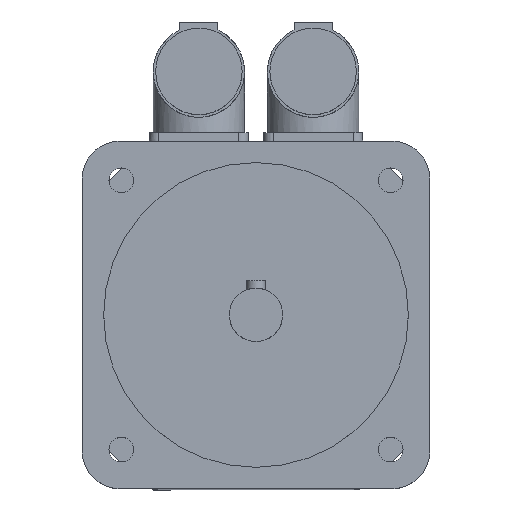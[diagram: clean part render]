
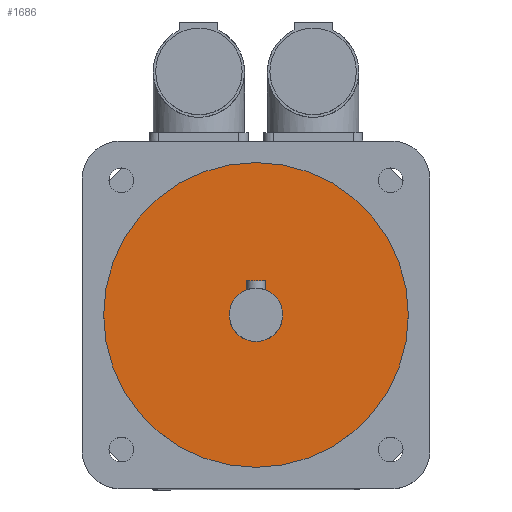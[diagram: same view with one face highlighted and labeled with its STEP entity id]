
A CAD part, top view. The second image highlights one B-rep face of the part: STEP entity #1686.
In plain terms, the highlighted planar face has unit normal (0, 0, 1).
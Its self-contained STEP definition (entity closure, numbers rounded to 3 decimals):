
#28=FACE_BOUND('',#305,.T.);
#53=CIRCLE('',#1788,7.);
#54=CIRCLE('',#1791,40.);
#202=FACE_OUTER_BOUND('',#304,.T.);
#304=EDGE_LOOP('',(#1158));
#305=EDGE_LOOP('',(#1159));
#718=VERTEX_POINT('',#2569);
#719=VERTEX_POINT('',#2573);
#892=EDGE_CURVE('',#718,#718,#53,.T.);
#893=EDGE_CURVE('',#719,#719,#54,.T.);
#1158=ORIENTED_EDGE('',*,*,#893,.T.);
#1159=ORIENTED_EDGE('',*,*,#892,.T.);
#1633=PLANE('',#1793);
#1686=ADVANCED_FACE('',(#202,#28),#1633,.T.);
#1788=AXIS2_PLACEMENT_3D('',#2570,#2000,#2001);
#1791=AXIS2_PLACEMENT_3D('',#2574,#2006,#2007);
#1793=AXIS2_PLACEMENT_3D('',#2577,#2010,#2011);
#2000=DIRECTION('center_axis',(0.,0.,-1.));
#2001=DIRECTION('ref_axis',(-1.,0.,0.));
#2006=DIRECTION('center_axis',(0.,0.,1.));
#2007=DIRECTION('ref_axis',(-1.,0.,0.));
#2010=DIRECTION('center_axis',(0.,0.,1.));
#2011=DIRECTION('ref_axis',(1.,0.,0.));
#2569=CARTESIAN_POINT('',(7.,0.,161.));
#2570=CARTESIAN_POINT('Origin',(0.,0.,161.));
#2573=CARTESIAN_POINT('',(40.,0.,161.));
#2574=CARTESIAN_POINT('Origin',(0.,0.,161.));
#2577=CARTESIAN_POINT('Origin',(0.,0.,
161.));
